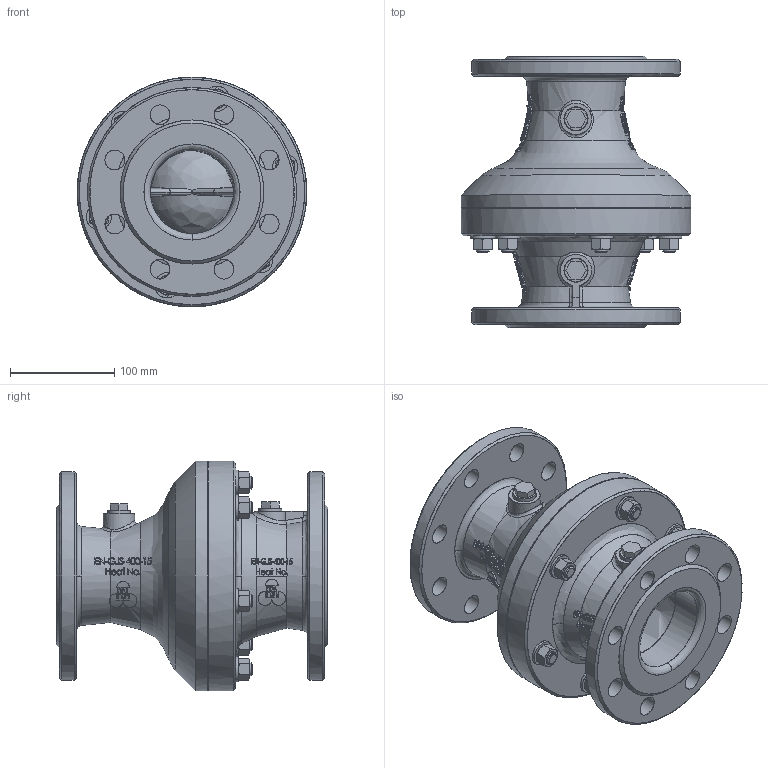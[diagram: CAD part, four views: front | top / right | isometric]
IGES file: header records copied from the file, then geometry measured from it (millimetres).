
Start section: P
Global section: file name: PSA_Hydro-Stop_DN80.igs; native system: By Siemens PLM Incorporated; preprocessor: XPlus GENERIC/IGES 25.1.153; author: Christin-Michelle Fremgen; organization: PSA Wasserarmaturen GmbH; date: 20241009.154411; units: millimetre
Bounding box: 220 x 260 x 220 mm (x, y, z)
Surface area: 376989.2 mm2 (no closed solid volume)
Topology: 0 solids, 0 shells, 1400 faces, 7701 edges, 7689 vertices
Faces by surface type: bspline 1400
